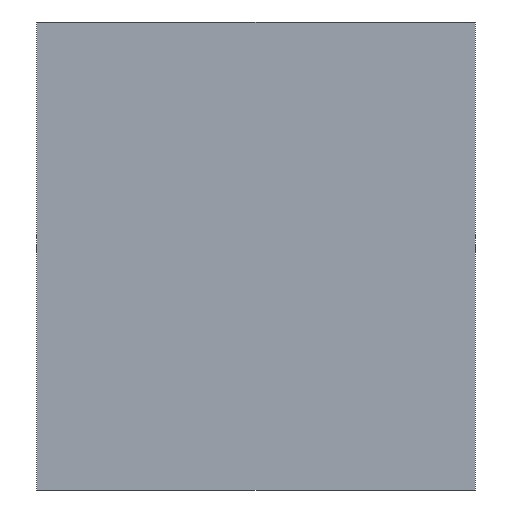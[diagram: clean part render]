
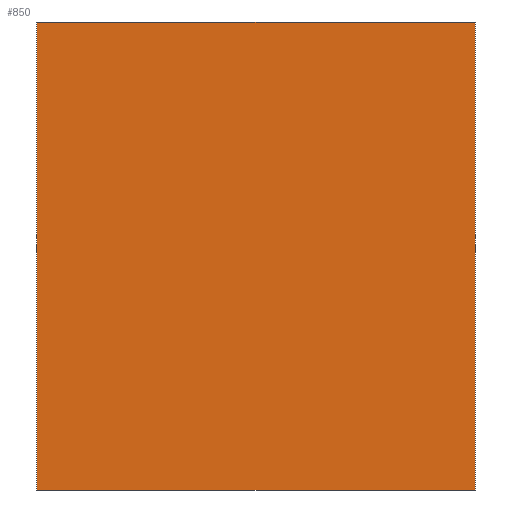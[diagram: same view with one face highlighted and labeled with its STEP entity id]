
A CAD part, front view. The second image highlights one B-rep face of the part: STEP entity #850.
In plain terms, the highlighted planar face has unit normal (0, -1, 0).
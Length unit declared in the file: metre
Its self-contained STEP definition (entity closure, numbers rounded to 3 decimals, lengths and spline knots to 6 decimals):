
#60=ORIENTED_EDGE('',*,*,#279,.T.);
#61=ORIENTED_EDGE('',*,*,#298,.T.);
#62=ORIENTED_EDGE('',*,*,#293,.F.);
#63=ORIENTED_EDGE('',*,*,#296,.F.);
#279=EDGE_CURVE('',#397,#399,#479,.T.);
#293=EDGE_CURVE('',#413,#414,#493,.T.);
#296=EDGE_CURVE('',#397,#413,#496,.T.);
#298=EDGE_CURVE('',#399,#414,#498,.T.);
#397=VERTEX_POINT('',#1206);
#399=VERTEX_POINT('',#1210);
#413=VERTEX_POINT('',#1239);
#414=VERTEX_POINT('',#1241);
#479=LINE('',#1211,#599);
#493=LINE('',#1240,#613);
#496=LINE('',#1246,#616);
#498=LINE('',#1249,#618);
#599=VECTOR('',#977,1.);
#613=VECTOR('',#993,1.);
#616=VECTOR('',#998,1.);
#618=VECTOR('',#1002,1.);
#702=EDGE_LOOP('',(#60,#61,#62,#63));
#758=FACE_BOUND('',#702,.T.);
#807=PLANE('',#906);
#850=ADVANCED_FACE('',(#758),#807,.T.);
#906=AXIS2_PLACEMENT_3D('',#1248,#1000,#1001);
#977=DIRECTION('',(1.,0.,0.));
#993=DIRECTION('',(1.,0.,0.));
#998=DIRECTION('',(0.,0.,1.));
#1000=DIRECTION('',(0.,-1.,0.));
#1001=DIRECTION('',(1.,0.,0.));
#1002=DIRECTION('',(0.,0.,1.));
#1206=CARTESIAN_POINT('',(-0.0075,0.026,0.01165));
#1210=CARTESIAN_POINT('',(0.0075,0.026,0.01165));
#1211=CARTESIAN_POINT('',(-0.0075,0.026,0.01165));
#1239=CARTESIAN_POINT('',(-0.0075,0.026,0.02765));
#1240=CARTESIAN_POINT('',(-0.0075,0.026,0.02765));
#1241=CARTESIAN_POINT('',(0.0075,0.026,0.02765));
#1246=CARTESIAN_POINT('',(-0.0075,0.026,0.01165));
#1248=CARTESIAN_POINT('',(-0.0075,0.026,0.01165));
#1249=CARTESIAN_POINT('',(0.0075,0.026,0.01165));
